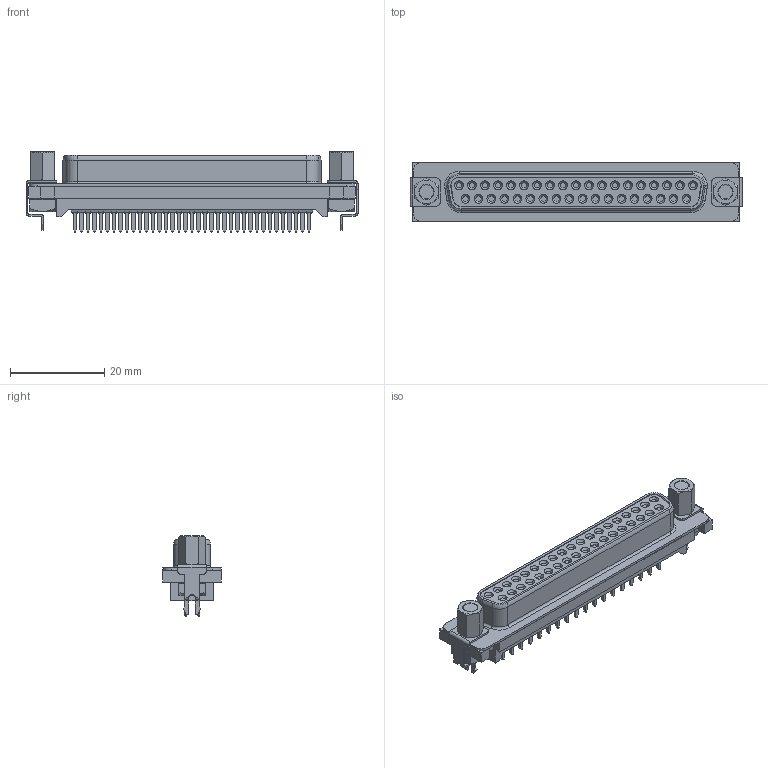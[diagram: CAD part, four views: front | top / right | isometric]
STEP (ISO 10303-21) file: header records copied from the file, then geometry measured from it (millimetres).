
FILE_DESCRIPTION (( 'STEP AP203' ), '1' );
FILE_NAME ('17JE-13370-37(D23B)-FA.STEP', '2021-12-21T10:40:56', ( '' ), ( '' ), 'SwSTEP 2.0', 'SolidWorks 2018', '' );
FILE_SCHEMA (( 'CONFIG_CONTROL_DESIGN' ));
Length unit declared in the file: millimetre
Products named in the file (1): 17JE-13370-37(D23B)-FA
Bounding box: 70.5 x 12.5 x 17 mm (x, y, z)
Volume: 6755.7 mm3; surface area: 6651.4 mm2
Topology: 1 solids, 5 shells, 1305 faces, 3369 edges, 2166 vertices
Faces by surface type: plane 902, cylinder 242, cone 103, torus 58
Entity records: 39766 total; most frequent: CARTESIAN_POINT 7201, DIRECTION 6787, ORIENTED_EDGE 6738, EDGE_CURVE 3369, LINE 2451, VECTOR 2451, AXIS2_PLACEMENT_3D 2168, VERTEX_POINT 2166
